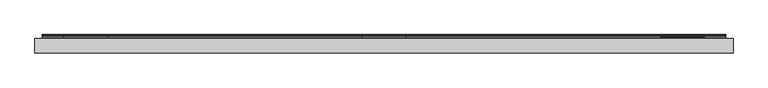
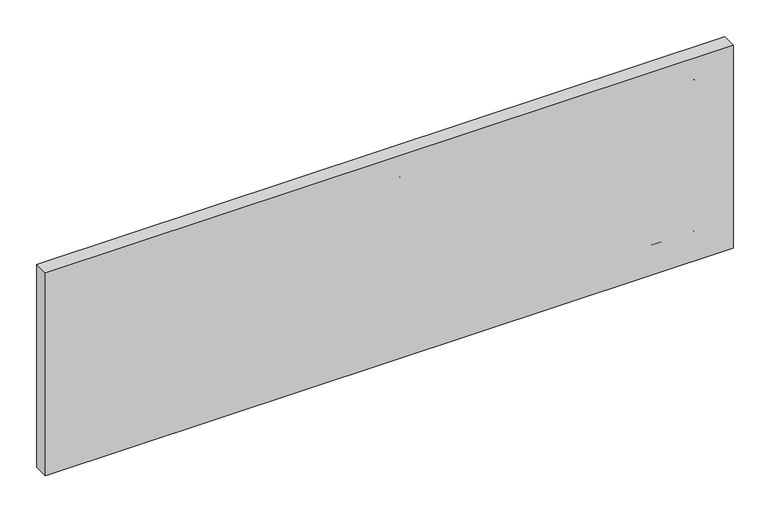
"""IFC4 building model written with IfcOpenShell, lengths in millimetres: furniture geometry, Geiger_GeigerOneCasegoods_WallTileTopTileorWallMounted : Vertical Veneer 48Wx 1.25Dx 15H."""

from ifc_helpers import new_model, si_unit, point, frame, frame_2d, origin, origin_with_axes, place, context, project, spatial, polyline, circle_curve, trimmed, segment, composite_curve, outline, extrude, source, transform, mapped, element, save


def furniture_4b8cdf0e(model_context):
    return source(origin(), model_context, "Body", "SweptSolid", [
        extrude(outline(composite_curve([segment(polyline([(2.8956, 38.227), (2.8956, 31.2928), (3.7084, 30.5054), (5.6134, 30.5054), (6.4008, 29.6926), (6.4008, -2.0066), (5.1054, -2.0066), (3.5052, -0.4064), (3.5052, 24.1808), (2.6924, 24.9936), (0.8128, 24.9936), (0.0, 25.781), (0.0, 39.1922)]), True, "CONTINUOUS"), segment(trimmed(circle_curve(frame_2d((0.8034421, 39.1828421)), 0.8034966), [point((0.0, 39.1922))], [point((1.3716, 39.751))], False, "CARTESIAN"), True, "CONTINUOUS"), segment(polyline([(1.3716, 39.751), (2.8956, 38.227)]), True, "CONTINUOUS")], self_intersect=False)), frame((12.5, 0.0, 0.0), z_axis=(1.0, 0.0, 0.0), x_axis=(0.0, 1.0, 0.0)), (0.0, 0.0, 1.0), 1192.8),
        extrude(outline(composite_curve([segment(polyline([(2.8956, 46.3286), (3.7084, 45.5158), (5.588, 45.5158), (6.4008, 44.7284), (6.4008, 31.3172)]), True, "CONTINUOUS"), segment(trimmed(circle_curve(frame_2d((5.5973579, 31.3265579)), 0.8034966), [point((6.4008, 31.3172))], [point((5.0292, 30.7584))], False, "CARTESIAN"), True, "CONTINUOUS"), segment(polyline([(5.0292, 30.7584), (3.5052, 32.2824), (3.5052, 39.2166), (2.6913677, 40.005), (0.7864312, 40.005), (0.0, 40.8168), (0.0, 72.516), (1.2954, 72.516), (2.8956, 70.9158), (2.8956, 46.3286)]), True, "CONTINUOUS")], self_intersect=False)), frame((571.0016, 0.0, 0.0), z_axis=(1.0, 0.0, 0.0), x_axis=(0.0, 1.0, 0.0)), (0.0, 0.0, 1.0), 75.7968),
        extrude(outline(composite_curve([segment(polyline([(2.8956, 329.8434), (3.7084, 329.0306), (5.588, 329.0306), (6.4008, 328.2432), (6.4008, 314.832)]), True, "CONTINUOUS"), segment(trimmed(circle_curve(frame_2d((5.5973579, 314.8413579)), 0.8034966), [point((6.4008, 314.832))], [point((5.0292, 314.2732))], False, "CARTESIAN"), True, "CONTINUOUS"), segment(polyline([(5.0292, 314.2732), (3.5052, 315.7972), (3.5052, 322.7314), (2.6913677, 323.5198), (0.7864312, 323.5198), (0.0, 324.3316), (0.0, 356.0308), (1.2954, 356.0308), (2.8956, 354.4306), (2.8956, 329.8434)]), True, "CONTINUOUS")], self_intersect=False)), frame((571.0016, 0.0, 0.0), z_axis=(1.0, 0.0, 0.0), x_axis=(0.0, 1.0, 0.0)), (0.0, 0.0, 1.0), 75.7968),
        extrude(outline(composite_curve([segment(polyline([(2.8956, 329.8434), (3.7084, 329.0306), (5.588, 329.0306), (6.4008, 328.2432), (6.4008, 314.832)]), True, "CONTINUOUS"), segment(trimmed(circle_curve(frame_2d((5.5973579, 314.8413579)), 0.8034966), [point((6.4008, 314.832))], [point((5.0292, 314.2732))], False, "CARTESIAN"), True, "CONTINUOUS"), segment(polyline([(5.0292, 314.2732), (3.5052, 315.7972), (3.5052, 322.7314), (2.6913677, 323.5198), (0.7864312, 323.5198), (0.0, 324.3316), (0.0, 356.0308), (1.2954, 356.0308), (2.8956, 354.4306), (2.8956, 329.8434)]), True, "CONTINUOUS")], self_intersect=False)), frame((1091.8, 0.0, 0.0), z_axis=(1.0, 0.0, 0.0), x_axis=(0.0, 1.0, 0.0)), (0.0, 0.0, 1.0), 76.0),
        extrude(outline(composite_curve([segment(polyline([(3.5052, 315.7972), (3.5052, 322.7314), (2.6913677, 323.5198), (0.7864313, 323.5198), (0.0, 324.3316), (0.0, 356.0308), (1.2954, 356.0308), (2.8956, 354.4306), (2.8956, 329.8434), (3.7084, 329.0306), (5.588, 329.0306), (6.4008, 328.2432), (6.4008, 314.832)]), True, "CONTINUOUS"), segment(trimmed(circle_curve(frame_2d((5.5973579, 314.8413579)), 0.8034966), [point((6.4008, 314.832))], [point((5.0292, 314.2732))], False, "CARTESIAN"), True, "CONTINUOUS"), segment(polyline([(5.0292, 314.2732), (3.5052, 315.7972)]), True, "CONTINUOUS")], self_intersect=False)), frame((50.0, 0.0, 0.0), z_axis=(1.0, 0.0, 0.0), x_axis=(0.0, 1.0, 0.0)), (0.0, 0.0, 1.0), 76.0),
        extrude(outline(composite_curve([segment(polyline([(2.8956, 38.227), (2.8956, 31.2928), (3.7084, 30.5054), (5.6134, 30.5054), (6.4008, 29.6926), (6.4008, -2.0066), (5.1054, -2.0066), (3.5052, -0.4064), (3.5052, 24.1808), (2.6924, 24.9936), (0.8128, 24.9936), (0.0, 25.781), (0.0, 39.1922)]), True, "CONTINUOUS"), segment(trimmed(circle_curve(frame_2d((0.8034421, 39.1828421)), 0.8034966), [point((0.0, 39.1922))], [point((1.3716, 39.751))], False, "CARTESIAN"), True, "CONTINUOUS"), segment(polyline([(1.3716, 39.751), (2.8956, 38.227)]), True, "CONTINUOUS")], self_intersect=False)), frame((12.5, 0.0, 0.0), z_axis=(1.0, 0.0, 0.0), x_axis=(0.0, 1.0, 0.0)), (0.0, 0.0, 1.0), 1192.8),
        extrude(outline(composite_curve([segment(polyline([(2.8956, 321.7418), (2.8956, 314.8076), (3.7084, 314.0202), (5.6134, 314.0202), (6.4008, 313.2074), (6.4008, 281.5082), (5.1054, 281.5082), (3.5052, 283.1084), (3.5052, 307.6956), (2.6924, 308.5084), (0.8128, 308.5084), (0.0, 309.2958), (0.0, 322.707)]), True, "CONTINUOUS"), segment(trimmed(circle_curve(frame_2d((0.8034421, 322.6976421)), 0.8034966), [point((0.0, 322.707))], [point((1.3716, 323.2658))], False, "CARTESIAN"), True, "CONTINUOUS"), segment(polyline([(1.3716, 323.2658), (2.8956, 321.7418)]), True, "CONTINUOUS")], self_intersect=False)), frame((12.5, 0.0, 0.0), z_axis=(1.0, 0.0, 0.0), x_axis=(0.0, 1.0, 0.0)), (0.0, 0.0, 1.0), 1192.8),
        extrude(outline(composite_curve([segment(polyline([(2.8956, 46.3286), (3.7084, 45.5158), (5.588, 45.5158), (6.4008, 44.7284), (6.4008, 31.3172)]), True, "CONTINUOUS"), segment(trimmed(circle_curve(frame_2d((5.5973579, 31.3265579)), 0.8034966), [point((6.4008, 31.3172))], [point((5.0292, 30.7584))], False, "CARTESIAN"), True, "CONTINUOUS"), segment(polyline([(5.0292, 30.7584), (3.5052, 32.2824), (3.5052, 39.2166), (2.6913677, 40.005), (0.7864312, 40.005), (0.0, 40.8168), (0.0, 72.516), (1.2954, 72.516), (2.8956, 70.9158), (2.8956, 46.3286)]), True, "CONTINUOUS")], self_intersect=False)), frame((1091.8, 0.0, 0.0), z_axis=(1.0, 0.0, 0.0), x_axis=(0.0, 1.0, 0.0)), (0.0, 0.0, 1.0), 76.0),
        extrude(outline(composite_curve([segment(polyline([(3.5052, 32.2824), (3.5052, 39.2166), (2.6913677, 40.005), (0.7864312, 40.005), (0.0, 40.8168), (0.0, 72.516), (1.2954, 72.516), (2.8956, 70.9158), (2.8956, 46.3286), (3.7084, 45.5158), (5.588, 45.5158), (6.4008, 44.7284), (6.4008, 31.3172)]), True, "CONTINUOUS"), segment(trimmed(circle_curve(frame_2d((5.5973579, 31.3265579)), 0.8034966), [point((6.4008, 31.3172))], [point((5.0292, 30.7584))], False, "CARTESIAN"), True, "CONTINUOUS"), segment(polyline([(5.0292, 30.7584), (3.5052, 32.2824)]), True, "CONTINUOUS")], self_intersect=False)), frame((50.0, 0.0, 0.0), z_axis=(1.0, 0.0, 0.0), x_axis=(0.0, 1.0, 0.0)), (0.0, 0.0, 1.0), 76.0),
        extrude(outline(polyline([(1217.8, 0.0), (1217.8, -26.0), (0.0, -26.0), (0.0, 0.0), (1217.8, 0.0)])), origin_with_axes(), (0.0, 0.0, 1.0), 380.0),
    ])


if __name__ == "__main__":
    model = new_model("IFC4")
    model_context = context("Model", 3, world=origin())
    ifc_project = project(units=[si_unit("LENGTHUNIT", "METRE", prefix="MILLI")], contexts=[model_context])
    site = spatial("IfcSite", under=ifc_project)
    building = spatial("IfcBuilding", under=site)
    placement = place(None, origin())
    furniture_shape = furniture_4b8cdf0e(model_context)
    element("IfcFurniture", 1, ObjectType="Geiger_GeigerOneCasegoods_WallTileTopTileorWallMounted : Vertical Veneer 48Wx 1.25Dx 15H", at=placement, inside=building, context=model_context, shape_type="MappedRepresentation", body=[
        mapped(furniture_shape, transform((0.0, 0.0, 0.0), x_axis=(1.0, 0.0, 0.0), y_axis=(0.0, 1.0, 0.0), z_axis=(0.0, 0.0, 1.0))),
    ])
    save(model, "model.ifc")
